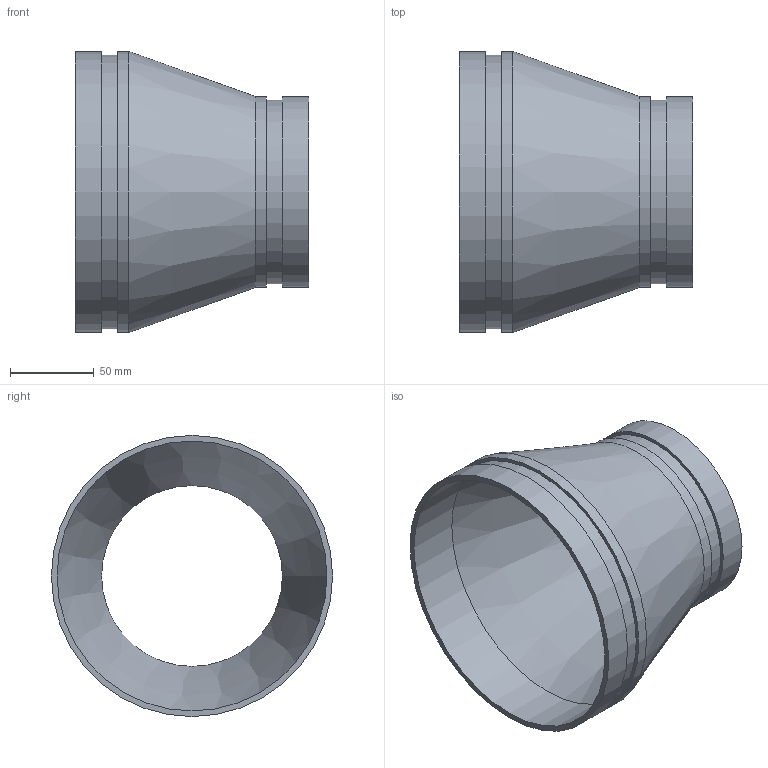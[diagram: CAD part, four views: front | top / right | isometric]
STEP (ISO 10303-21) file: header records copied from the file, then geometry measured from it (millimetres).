
FILE_DESCRIPTION(/* description */ ('VIC REDUCER CONCENTRIC No 450-SS','CAx-IF Rec.Pracs.---Representation and Presentation of Product Manufacturing Information (PMI)---4.0---2014-10-13'),/* implementation_level */ '2;1');
FILE_NAME(/* name */ 'C:\Users\kkamble\AppData\Roaming\Autodesk\ApplicationPlugins\Back Up\Victaulic_SS-OGS_Reducer Concentric_Sched 10S_No 450 SS (OGS)\Victaulic_SS-OGS_Reducer Concentric_Sched 10S_No 450 SS (OGS)_06.0x04.0 (150x100).stp',/* time_stamp */ '2020-09-08T12:33:32+05:00',/* author */ ('CORINNE GRAY'),/* organization */ ('Victaulic'),/* preprocessor_version */ 'ST-DEVELOPER v17.2',/* originating_system */ 'Autodesk Inventor 2019',/* authorisation */ '');
FILE_SCHEMA (('AP242_MANAGED_MODEL_BASED_3D_ENGINEERING_MIM_LF { 1 0 10303 442 1 1 4 }'));
Length unit declared in the file: inch
Products named in the file (1): 450 SS-06.0x04.0
Bounding box: 139.7 x 168.28 x 168.28 mm (x, y, z)
Volume: 177716.5 mm3; surface area: 131499.2 mm2
Topology: 1 solids, 1 shells, 16 faces, 42 edges, 32 vertices
Faces by surface type: cylinder 8, plane 6, cone 2
Full cylindrical faces by diameter (mm): 108.204 x1, 110.084 x1, 114.3 x2, 161.544 x1, 163.957 x1, 168.275 x2
Entity records: 686 total; most frequent: DIRECTION 134, CARTESIAN_POINT 108, ORIENTED_EDGE 84, AXIS2_PLACEMENT_3D 62, EDGE_CURVE 42, CIRCLE 32, VERTEX_POINT 32, EDGE_LOOP 22
